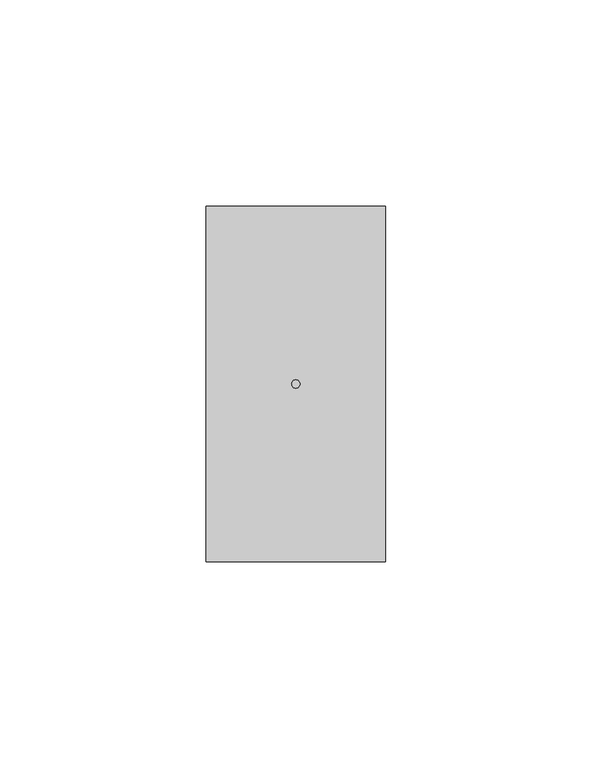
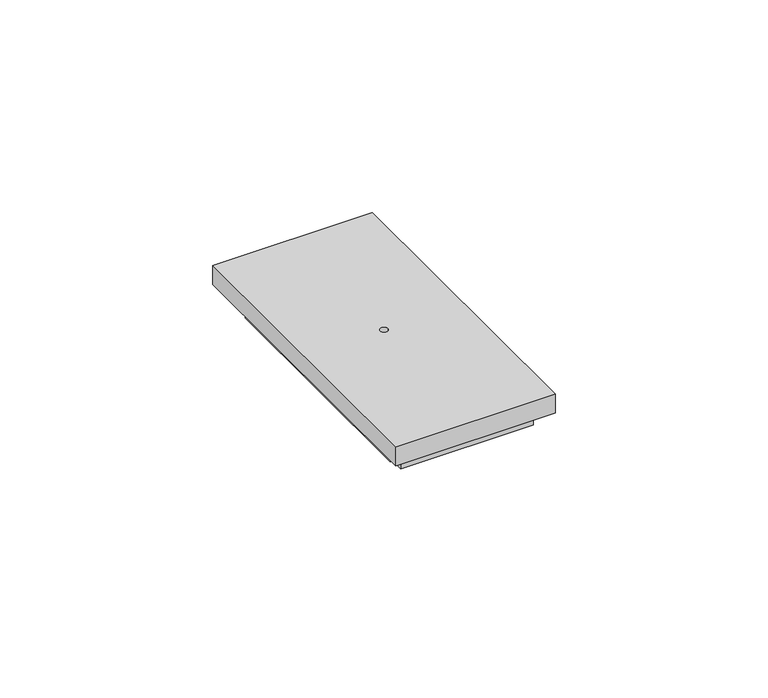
"""IFC4 building model written with IfcOpenShell, lengths in millimetres: proxy geometry, BT_LNsmart-Gateway : Gateway - Art. K4500C - 2M - Cover Bianco."""

from ifc_helpers import new_model, si_unit, point, frame, origin, origin_with_axes, origin_2d, place, context, project, spatial, polyline, circle_curve, trimmed, segment, composite_curve, outline, extrude, source, transform, mapped, element, save


def electrical_fixtures_a68487e4(model_context):
    return source(origin(), model_context, "Body", "SweptSolid", [
        extrude(outline(polyline([(-18.0, 39.0), (18.0, 39.0), (18.0, -39.0), (-18.0, -39.0), (-18.0, 39.0)])), frame((0.0, 0.0, 1.0), z_axis=(0.0, 0.0, 1.0), x_axis=(1.0, 0.0, 0.0)), (0.0, 0.0, 1.0), 4.5),
        extrude(outline(polyline([(-18.0, 34.0), (18.0, 34.0), (18.0, -34.0), (-18.0, -34.0), (-18.0, 34.0)])), origin_with_axes(), (0.0, 0.0, 1.0), 1.0),
        extrude(outline(polyline([(-21.7, -43.0), (-21.7, 43.0), (21.7, 43.0), (21.7, -43.0), (-21.7, -43.0)]), holes=[composite_curve([segment(trimmed(circle_curve(origin_2d(), 1.0), [point((-1.0, 0.0))], [point((1.0, 0.0))], True, "CARTESIAN"), True, "CONTINUOUS"), segment(trimmed(circle_curve(origin_2d(), 1.0), [point((1.0, 0.0))], [point((-1.0, 0.0))], True, "CARTESIAN"), True, "CONTINUOUS")], self_intersect=False)]), frame((0.0, 0.0, 5.5), z_axis=(0.0, 0.0, 1.0), x_axis=(1.0, 0.0, 0.0)), (0.0, 0.0, 1.0), 5.5),
    ])


if __name__ == "__main__":
    model = new_model("IFC4")
    model_context = context("Model", 3, world=origin())
    ifc_project = project(units=[si_unit("LENGTHUNIT", "METRE", prefix="MILLI")], contexts=[model_context])
    site = spatial("IfcSite", under=ifc_project)
    building = spatial("IfcBuilding", under=site)
    placement = place(None, origin())
    electrical_fixtures_shape = electrical_fixtures_a68487e4(model_context)
    element("IfcBuildingElementProxy", 1, Name="BT_LNsmart-Gateway : Gateway - Art. K4500C - 2M - Cover Bianco", ObjectType="BT_LNsmart-Gateway : Gateway - Art. K4500C - 2M - Cover Bianco", at=placement, inside=building, context=model_context, shape_type="MappedRepresentation", body=[
        mapped(electrical_fixtures_shape, transform((0.0, 0.0, 0.0), x_axis=(1.0, 0.0, 0.0), y_axis=(0.0, 1.0, 0.0), z_axis=(0.0, 0.0, 1.0))),
    ])
    save(model, "model.ifc")
